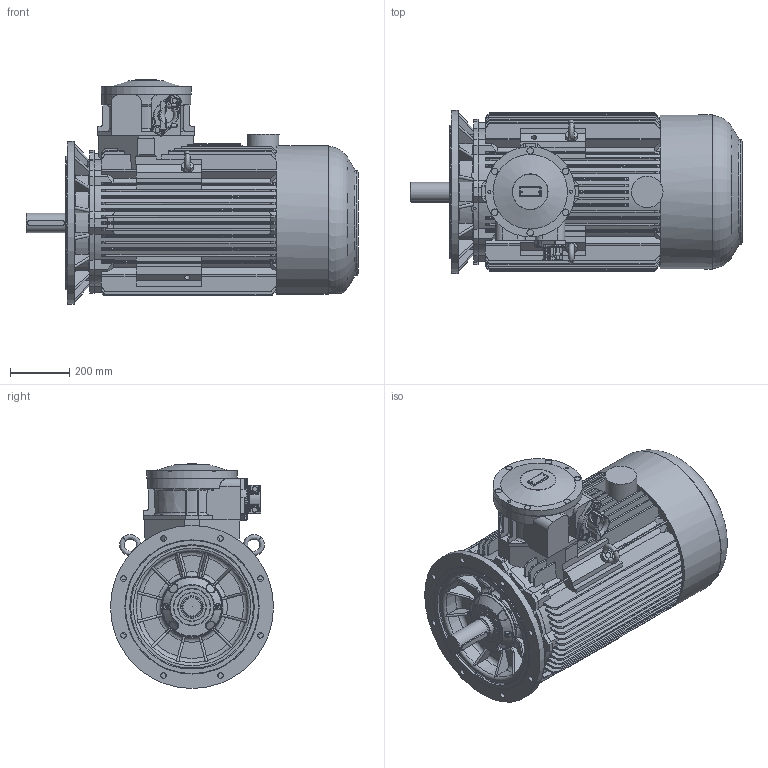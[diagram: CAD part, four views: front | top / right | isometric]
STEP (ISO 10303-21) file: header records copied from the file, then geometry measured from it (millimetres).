
FILE_DESCRIPTION(/* description */ ('Unknown'),/* implementation_level */ '2;1');
FILE_NAME(/* name */ 'cSTKe250M4-8 IE2-3',/* time_stamp */ '2021-12-13T10:34:51+01:00',/* author */ ('Unknown'),/* organization */ ('Unknown'),/* preprocessor_version */ 'ST-DEVELOPER v16.7',/* originating_system */ 'DEX',/* authorisation */ $);
FILE_SCHEMA (('AUTOMOTIVE_DESIGN {1 0 10303 214 3 1 1}'));
Products named in the file (1): cSTKe250M4-8 IE2-3
Bounding box: 1120 x 550 x 759 mm (x, y, z)
Volume: 184821474.4 mm3; surface area: 5350031.6 mm2
Topology: 2 solids, 17 shells, 1734 faces, 4664 edges, 2952 vertices
Faces by surface type: plane 717, cylinder 508, torus 181, cone 165, bspline 128, sphere 35
Full cylindrical faces by diameter (mm): 3.2 x2, 6.647 x2, 8.16 x4, 8.376 x4, 8.5 x2, 8.917 x1, 10 x6, 10.106 x2, 11 x4, 14.63 x3, 16.4 x2, 17.294 x7, 18.376 x1, 19 x8, 22 x6, 52 x2, 65 x1, 71.5 x1, 72 x1, 106 x1, 124.4 x1, 124.996 x1, 202 x1, 207.997 x1, 300.004 x1, 304.008 x1, 450 x1, 550 x1
Entity records: 71438 total; most frequent: CARTESIAN_POINT 18206, ORIENTED_EDGE 8822, DIRECTION 8141, EDGE_CURVE 4411, AXIS2_PLACEMENT_3D 2993, VERTEX_POINT 2878, LINE 2155, VECTOR 2155
